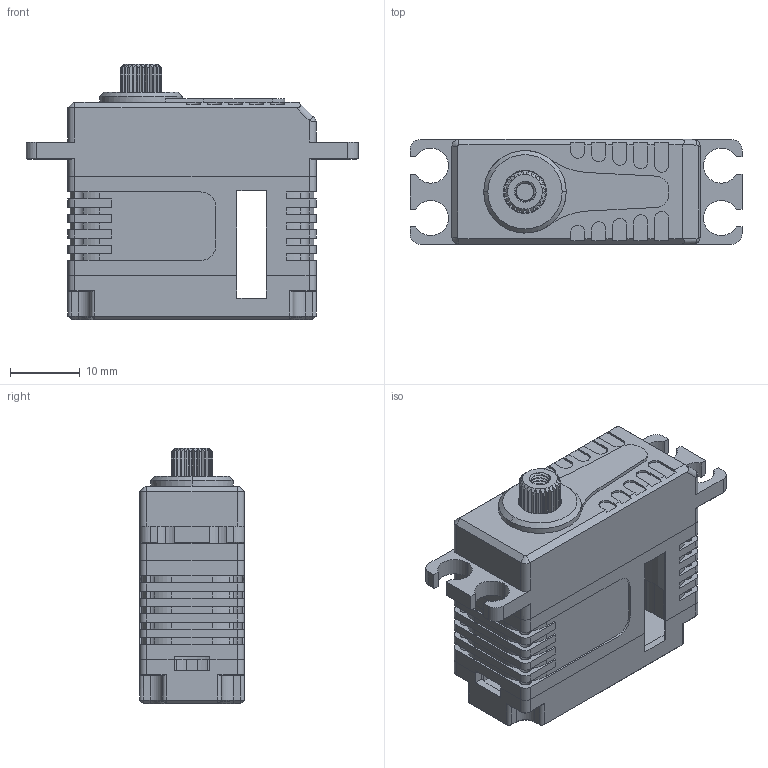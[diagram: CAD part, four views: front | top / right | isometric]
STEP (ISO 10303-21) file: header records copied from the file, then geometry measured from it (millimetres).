
FILE_DESCRIPTION (( 'STEP AP214' ), '1' );
FILE_NAME ('A15-1810_DM_20240815.STEP', '2024-08-15T00:44:06', ( '' ), ( '' ), 'SwSTEP 2.0', 'SolidWorks 2016', '' );
FILE_SCHEMA (( 'AUTOMOTIVE_DESIGN' ));
Length unit declared in the file: millimetre
Products named in the file (1): A15-1810_DM_20240815
Bounding box: 47.5 x 15 x 36.5 mm (x, y, z)
Surface area: 7337.7 mm2 (no closed solid volume)
Topology: 0 solids, 8 shells, 514 faces, 1657 edges, 1100 vertices
Faces by surface type: plane 268, cylinder 212, cone 30, bspline 4
Entity records: 25396 total; most frequent: CARTESIAN_POINT 5116, ORIENTED_EDGE 3143, DIRECTION 3037, EDGE_CURVE 1649, VERTEX_POINT 1100, AXIS2_PLACEMENT_3D 1020, LINE 997, VECTOR 997
